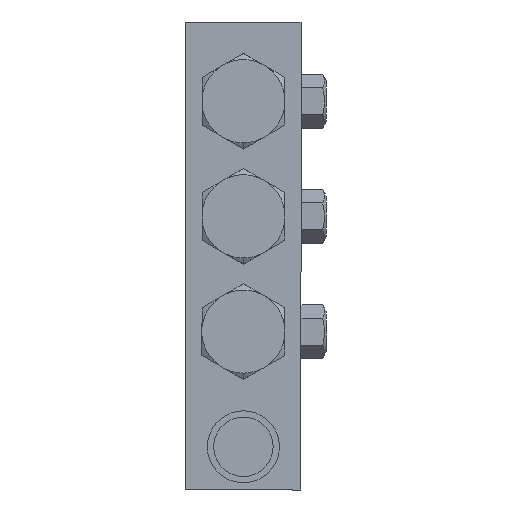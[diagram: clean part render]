
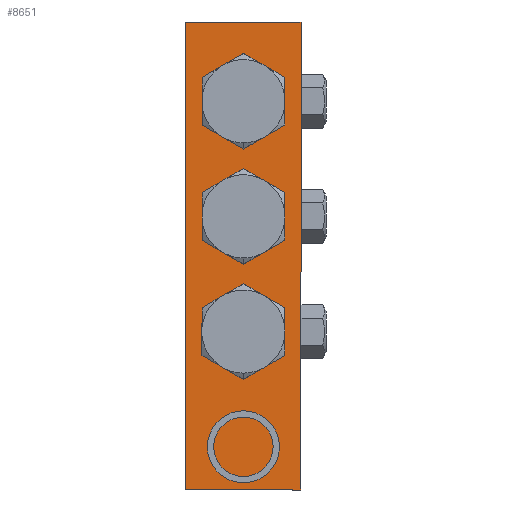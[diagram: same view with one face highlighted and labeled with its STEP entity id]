
A CAD part, front view. The second image highlights one B-rep face of the part: STEP entity #8651.
In plain terms, the highlighted planar face has unit normal (0, -1, 0).
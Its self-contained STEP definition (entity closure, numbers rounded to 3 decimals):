
#336 = VECTOR ( 'NONE', #1229, 1000. ) ;
#515 = ORIENTED_EDGE ( 'NONE', *, *, #9320, .F. ) ;
#900 = FACE_BOUND ( 'NONE', #10641, .T. ) ;
#989 = VECTOR ( 'NONE', #6856, 1000. ) ;
#1229 = DIRECTION ( 'NONE',  ( 1., 0., 0. ) ) ;
#1354 = DIRECTION ( 'NONE',  ( -1., 0., 0. ) ) ;
#1433 = AXIS2_PLACEMENT_3D ( 'NONE', #3653, #7439, #3724 ) ;
#1483 = DIRECTION ( 'NONE',  ( 0., -1., 0. ) ) ;
#1537 = VERTEX_POINT ( 'NONE', #3895 ) ;
#1577 = ORIENTED_EDGE ( 'NONE', *, *, #3402, .F. ) ;
#1648 = CIRCLE ( 'NONE', #1433, 11. ) ;
#1717 = CARTESIAN_POINT ( 'NONE',  ( -39.141, -83.285, -108. ) ) ;
#1745 = ORIENTED_EDGE ( 'NONE', *, *, #2635, .F. ) ;
#1757 = ORIENTED_EDGE ( 'NONE', *, *, #12079, .F. ) ;
#1857 = DIRECTION ( 'NONE',  ( -1., 0., 0. ) ) ;
#1970 = DIRECTION ( 'NONE',  ( 0., -1., 0. ) ) ;
#2045 = EDGE_CURVE ( 'NONE', #3296, #11164, #11812, .T. ) ;
#2297 = LINE ( 'NONE', #1717, #3052 ) ;
#2635 = EDGE_CURVE ( 'NONE', #5256, #11066, #10150, .T. ) ;
#2878 = FACE_BOUND ( 'NONE', #4962, .T. ) ;
#3052 = VECTOR ( 'NONE', #5679, 1000. ) ;
#3195 = FACE_BOUND ( 'NONE', #5245, .T. ) ;
#3228 = AXIS2_PLACEMENT_3D ( 'NONE', #8713, #6782, #1857 ) ;
#3290 = ORIENTED_EDGE ( 'NONE', *, *, #2045, .F. ) ;
#3296 = VERTEX_POINT ( 'NONE', #4743 ) ;
#3402 = EDGE_CURVE ( 'NONE', #11824, #7629, #6532, .T. ) ;
#3448 = ORIENTED_EDGE ( 'NONE', *, *, #9547, .F. ) ;
#3653 = CARTESIAN_POINT ( 'NONE',  ( -23.141, -83.285, 0. ) ) ;
#3724 = DIRECTION ( 'NONE',  ( -1., 0., 0. ) ) ;
#3895 = CARTESIAN_POINT ( 'NONE',  ( -12.141, -83.285, -64. ) ) ;
#4389 = CARTESIAN_POINT ( 'NONE',  ( -34.141, -83.285, 0. ) ) ;
#4601 = CARTESIAN_POINT ( 'NONE',  ( -23.141, -83.285, -64. ) ) ;
#4743 = CARTESIAN_POINT ( 'NONE',  ( -39.141, -83.285, -108. ) ) ;
#4962 = EDGE_LOOP ( 'NONE', ( #5396, #1745 ) ) ;
#5245 = EDGE_LOOP ( 'NONE', ( #1577, #11009 ) ) ;
#5256 = VERTEX_POINT ( 'NONE', #10517 ) ;
#5396 = ORIENTED_EDGE ( 'NONE', *, *, #12233, .F. ) ;
#5424 = EDGE_CURVE ( 'NONE', #7080, #3296, #2297, .T. ) ;
#5563 = CIRCLE ( 'NONE', #9071, 11. ) ;
#5679 = DIRECTION ( 'NONE',  ( -1., 0., 0. ) ) ;
#5696 = DIRECTION ( 'NONE',  ( -1., 0., 0. ) ) ;
#5835 = DIRECTION ( 'NONE',  ( -1., 0., 0. ) ) ;
#5986 = AXIS2_PLACEMENT_3D ( 'NONE', #11578, #1970, #5835 ) ;
#6078 = ORIENTED_EDGE ( 'NONE', *, *, #5424, .F. ) ;
#6257 = CARTESIAN_POINT ( 'NONE',  ( -23.141, -83.285, -43. ) ) ;
#6532 = CIRCLE ( 'NONE', #5986, 11. ) ;
#6614 = CIRCLE ( 'NONE', #6715, 11. ) ;
#6715 = AXIS2_PLACEMENT_3D ( 'NONE', #4601, #11440, #5696 ) ;
#6782 = DIRECTION ( 'NONE',  ( 0., -1., 0. ) ) ;
#6824 = CARTESIAN_POINT ( 'NONE',  ( -39.141, -83.285, 22. ) ) ;
#6831 = VERTEX_POINT ( 'NONE', #9094 ) ;
#6856 = DIRECTION ( 'NONE',  ( 0., 0., 1. ) ) ;
#7022 = CARTESIAN_POINT ( 'NONE',  ( -7.141, -83.285, 22. ) ) ;
#7080 = VERTEX_POINT ( 'NONE', #7901 ) ;
#7081 = CARTESIAN_POINT ( 'NONE',  ( -39.141, -83.285, 22. ) ) ;
#7231 = FACE_OUTER_BOUND ( 'NONE', #8855, .T. ) ;
#7418 = ORIENTED_EDGE ( 'NONE', *, *, #12097, .F. ) ;
#7439 = DIRECTION ( 'NONE',  ( 0., -1., 0. ) ) ;
#7629 = VERTEX_POINT ( 'NONE', #11580 ) ;
#7901 = CARTESIAN_POINT ( 'NONE',  ( -7.141, -83.285, -108. ) ) ;
#7990 = LINE ( 'NONE', #7081, #336 ) ;
#7994 = CARTESIAN_POINT ( 'NONE',  ( -7.141, -83.285, 22. ) ) ;
#8012 = DIRECTION ( 'NONE',  ( 1., 0., 0. ) ) ;
#8420 = CIRCLE ( 'NONE', #3228, 11. ) ;
#8651 = ADVANCED_FACE ( 'NONE', ( #900, #3195, #2878, #7231 ), #11983, .F. ) ;
#8713 = CARTESIAN_POINT ( 'NONE',  ( -23.141, -83.285, -32. ) ) ;
#8855 = EDGE_LOOP ( 'NONE', ( #6078, #7418, #1757, #3290 ) ) ;
#9055 = CARTESIAN_POINT ( 'NONE',  ( -23.141, -83.285, -64. ) ) ;
#9071 = AXIS2_PLACEMENT_3D ( 'NONE', #9055, #9129, #1354 ) ;
#9094 = CARTESIAN_POINT ( 'NONE',  ( -34.141, -83.285, -64. ) ) ;
#9129 = DIRECTION ( 'NONE',  ( 0., -1., 0. ) ) ;
#9320 = EDGE_CURVE ( 'NONE', #6831, #1537, #6614, .T. ) ;
#9359 = LINE ( 'NONE', #7994, #11593 ) ;
#9547 = EDGE_CURVE ( 'NONE', #1537, #6831, #5563, .T. ) ;
#9774 = AXIS2_PLACEMENT_3D ( 'NONE', #12049, #1483, #11962 ) ;
#9977 = DIRECTION ( 'NONE',  ( 0., 0., -1. ) ) ;
#9991 = DIRECTION ( 'NONE',  ( 0., 1., 0. ) ) ;
#10150 = CIRCLE ( 'NONE', #9774, 11. ) ;
#10517 = CARTESIAN_POINT ( 'NONE',  ( -12.141, -83.285, 0. ) ) ;
#10641 = EDGE_LOOP ( 'NONE', ( #515, #3448 ) ) ;
#10910 = CARTESIAN_POINT ( 'NONE',  ( -34.141, -83.285, -32. ) ) ;
#11009 = ORIENTED_EDGE ( 'NONE', *, *, #12378, .F. ) ;
#11066 = VERTEX_POINT ( 'NONE', #4389 ) ;
#11164 = VERTEX_POINT ( 'NONE', #12134 ) ;
#11409 = AXIS2_PLACEMENT_3D ( 'NONE', #6257, #9991, #8012 ) ;
#11440 = DIRECTION ( 'NONE',  ( 0., -1., 0. ) ) ;
#11578 = CARTESIAN_POINT ( 'NONE',  ( -23.141, -83.285, -32. ) ) ;
#11580 = CARTESIAN_POINT ( 'NONE',  ( -12.141, -83.285, -32. ) ) ;
#11593 = VECTOR ( 'NONE', #9977, 1000. ) ;
#11812 = LINE ( 'NONE', #6824, #989 ) ;
#11824 = VERTEX_POINT ( 'NONE', #10910 ) ;
#11962 = DIRECTION ( 'NONE',  ( -1., 0., 0. ) ) ;
#11983 = PLANE ( 'NONE',  #11409 ) ;
#12049 = CARTESIAN_POINT ( 'NONE',  ( -23.141, -83.285, 0. ) ) ;
#12079 = EDGE_CURVE ( 'NONE', #11164, #12446, #7990, .T. ) ;
#12097 = EDGE_CURVE ( 'NONE', #12446, #7080, #9359, .T. ) ;
#12134 = CARTESIAN_POINT ( 'NONE',  ( -39.141, -83.285, 22. ) ) ;
#12233 = EDGE_CURVE ( 'NONE', #11066, #5256, #1648, .T. ) ;
#12378 = EDGE_CURVE ( 'NONE', #7629, #11824, #8420, .T. ) ;
#12446 = VERTEX_POINT ( 'NONE', #7022 ) ;
